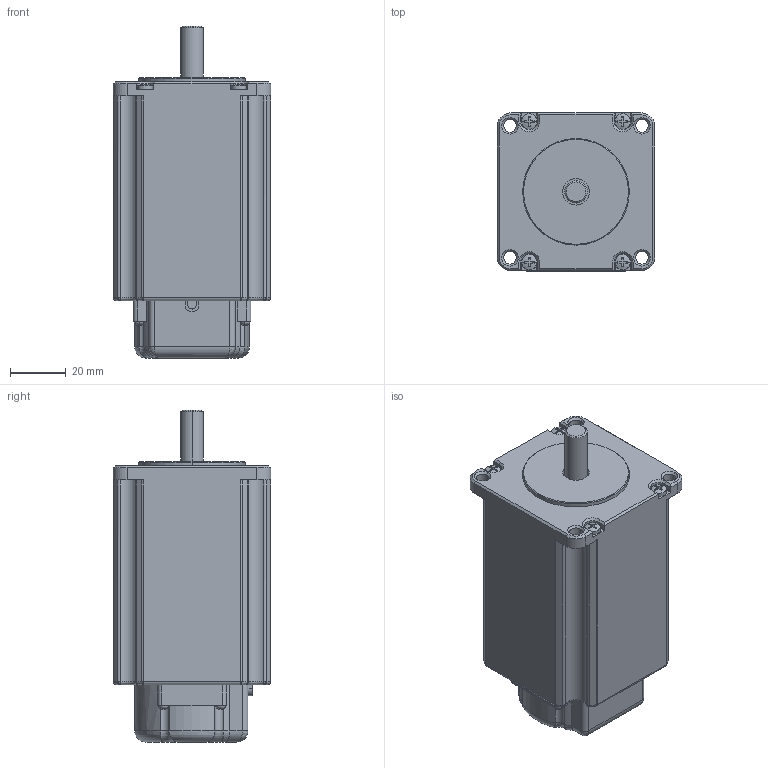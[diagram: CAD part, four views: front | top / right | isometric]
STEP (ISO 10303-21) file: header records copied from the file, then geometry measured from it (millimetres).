
FILE_DESCRIPTION((''),'2;1');
FILE_NAME('TS4747_OUTLINE','2022-05-24T07:50:24',('tec1105'),('Tamagawa Seiki Co.,LTD'),'CREO PARAMETRIC BY PTC INC, 2019030','CREO PARAMETRIC BY PTC INC, 2019030','');
FILE_SCHEMA(('AUTOMOTIVE_DESIGN { 1 0 10303 214 1 1 1 1 }'));
Length unit declared in the file: millimetre
Products named in the file (1): TS4747_OUTLINE
Bounding box: 56.4 x 56.4 x 118.6 mm (x, y, z)
Volume: 256393.4 mm3; surface area: 32934 mm2
Topology: 1 solids, 5 shells, 428 faces, 1109 edges, 689 vertices
Faces by surface type: plane 179, cylinder 130, cone 36, bspline 34, torus 25, sphere 24
Entity records: 19582 total; most frequent: CARTESIAN_POINT 8963, DIRECTION 2237, ORIENTED_EDGE 2182, EDGE_CURVE 1091, AXIS2_PLACEMENT_3D 870, VERTEX_POINT 689, VECTOR 497, LINE 497
